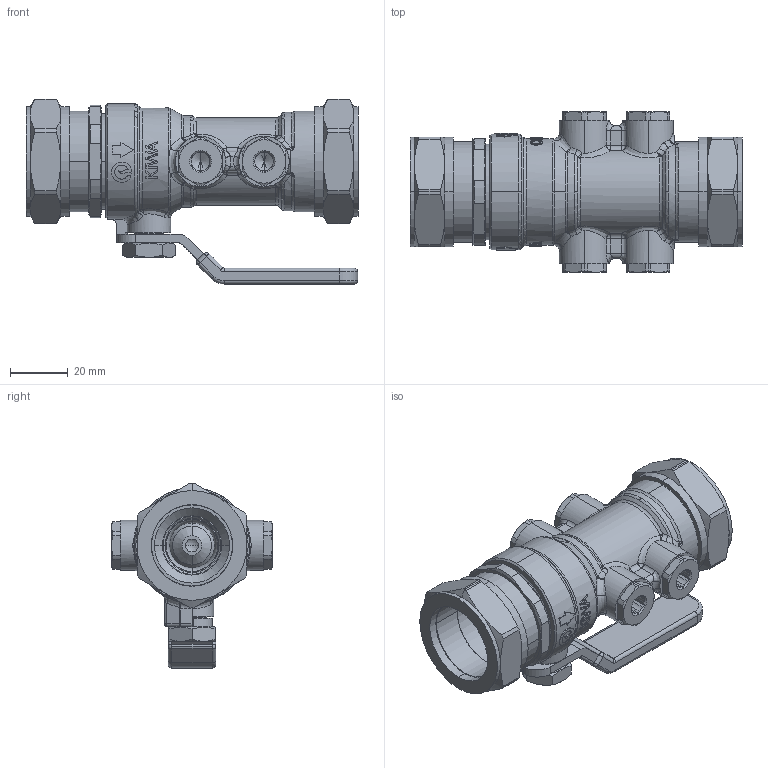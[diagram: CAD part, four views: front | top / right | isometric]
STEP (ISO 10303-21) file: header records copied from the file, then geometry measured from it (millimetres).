
FILE_DESCRIPTION (( 'STEP AP214' ), '1' );
FILE_NAME ('W228025242.STEP', '2018-09-17T07:13:53', ( '' ), ( '' ), 'SwSTEP 2.0', 'SolidWorks 2017', '' );
FILE_SCHEMA (( 'AUTOMOTIVE_DESIGN' ));
Length unit declared in the file: millimetre
Products named in the file (19): W034025501_00A_W034025515UsComp28; W149025618_A_open; W092025315_00A; 10088; W098015209_W098015212_PerceeEnrobee; W098020202_00A; W098025100_A; TK000A6602_0_022025070; W093003102_00A; W097025108_A; W098020211_00A_P627 4 pour 20 et 25; 9696; TK025F1102_6; TK025F2904_020025021; W022014070; IN025F1501_6; W228025242; TK025F1001_5; W098020204
Assembly tree (27 placements, depth 3):
  W228025242
    W034025501_00A_W034025515UsComp28
    W098020211_00A_P627 4 pour 20 et 25
    W098015209_W098015212_PerceeEnrobee
    9696
    10088
    W092025315_00A
    W098020202_00A
    W098020204  x2
    W097025108_A  x2
    W098025100_A  x2
    W149025618_A_open
      TK025F1001_5
      IN025F1501_6
      TK025F1102_6
      TK025F2904_020025021
    TK000A6602_0_022025070
    W093003102_00A  x4
    W022014070  x4
Bounding box: 114.9 x 55.6 x 64.15 mm (x, y, z)
Volume: 83298 mm3; surface area: 64284.6 mm2
Topology: 27 solids, 27 shells, 1308 faces, 3227 edges, 1967 vertices
Faces by surface type: plane 448, cylinder 335, cone 241, bspline 167, torus 98, sphere 19
Entity records: 39986 total; most frequent: CARTESIAN_POINT 14753, ORIENTED_EDGE 5214, DIRECTION 4812, EDGE_CURVE 2607, AXIS2_PLACEMENT_3D 1929, VERTEX_POINT 1607, EDGE_LOOP 1158, FACE_OUTER_BOUND 1074
